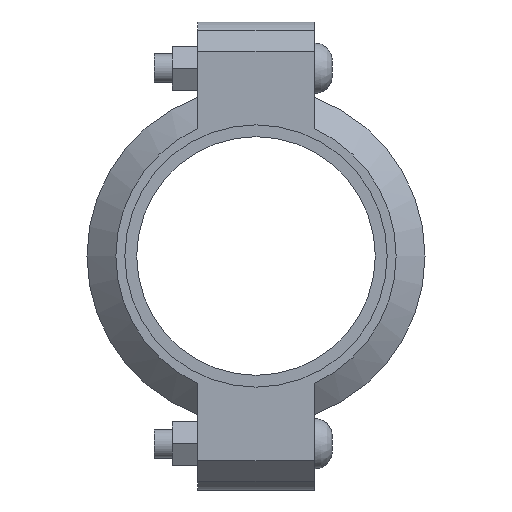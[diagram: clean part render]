
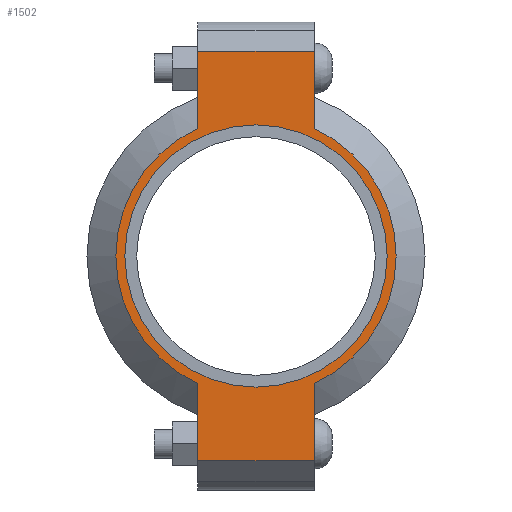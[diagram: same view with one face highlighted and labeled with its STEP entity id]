
A CAD part, left-side view. The second image highlights one B-rep face of the part: STEP entity #1502.
In plain terms, the highlighted planar face has unit normal (-1, 0, 0) as drawn and (0, 0, 1) by its records, which use the part's own axes.
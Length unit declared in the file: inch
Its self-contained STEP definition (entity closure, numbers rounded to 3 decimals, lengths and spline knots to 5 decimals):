
#126=LINE('',#2612,#219);
#134=LINE('',#2648,#227);
#141=LINE('',#2669,#234);
#150=LINE('',#2701,#243);
#151=LINE('',#2705,#244);
#152=LINE('',#2707,#245);
#219=VECTOR('',#2136,0.3937);
#227=VECTOR('',#2152,0.3937);
#234=VECTOR('',#2171,0.3937);
#243=VECTOR('',#2196,0.3937);
#244=VECTOR('',#2201,0.3937);
#245=VECTOR('',#2202,0.3937);
#301=FACE_BOUND('',#479,.T.);
#373=FACE_OUTER_BOUND('',#478,.T.);
#478=EDGE_LOOP('',(#1243,#1244,#1245,#1246,#1247,#1248,#1249,#1250));
#479=EDGE_LOOP('',(#1251));
#551=CIRCLE('',#1712,2.25);
#577=CIRCLE('',#1771,2.405);
#578=CIRCLE('',#1772,2.405);
#643=VERTEX_POINT('',#2428);
#686=VERTEX_POINT('',#2609);
#687=VERTEX_POINT('',#2611);
#698=VERTEX_POINT('',#2643);
#699=VERTEX_POINT('',#2647);
#706=VERTEX_POINT('',#2666);
#707=VERTEX_POINT('',#2668);
#717=VERTEX_POINT('',#2704);
#718=VERTEX_POINT('',#2706);
#799=EDGE_CURVE('',#643,#643,#551,.T.);
#860=EDGE_CURVE('',#687,#686,#126,.T.);
#874=EDGE_CURVE('',#699,#698,#134,.T.);
#884=EDGE_CURVE('',#707,#706,#141,.T.);
#899=EDGE_CURVE('',#699,#686,#150,.T.);
#900=EDGE_CURVE('',#698,#707,#577,.T.);
#901=EDGE_CURVE('',#717,#706,#151,.T.);
#902=EDGE_CURVE('',#717,#718,#152,.T.);
#903=EDGE_CURVE('',#718,#687,#578,.T.);
#1243=ORIENTED_EDGE('',*,*,#899,.F.);
#1244=ORIENTED_EDGE('',*,*,#874,.T.);
#1245=ORIENTED_EDGE('',*,*,#900,.T.);
#1246=ORIENTED_EDGE('',*,*,#884,.T.);
#1247=ORIENTED_EDGE('',*,*,#901,.F.);
#1248=ORIENTED_EDGE('',*,*,#902,.T.);
#1249=ORIENTED_EDGE('',*,*,#903,.T.);
#1250=ORIENTED_EDGE('',*,*,#860,.T.);
#1251=ORIENTED_EDGE('',*,*,#799,.T.);
#1344=PLANE('',#1770);
#1502=ADVANCED_FACE('',(#373,#301),#1344,.T.);
#1712=AXIS2_PLACEMENT_3D('',#2430,#2012,#2013);
#1770=AXIS2_PLACEMENT_3D('',#2702,#2197,#2198);
#1771=AXIS2_PLACEMENT_3D('',#2703,#2199,#2200);
#1772=AXIS2_PLACEMENT_3D('',#2708,#2203,#2204);
#2012=DIRECTION('center_axis',(0.,0.,-1.));
#2013=DIRECTION('ref_axis',(-1.,0.,0.));
#2136=DIRECTION('',(-1.,0.,0.));
#2152=DIRECTION('',(1.,0.,0.));
#2171=DIRECTION('',(1.,0.,0.));
#2196=DIRECTION('',(0.,1.,0.));
#2197=DIRECTION('center_axis',(0.,0.,1.));
#2198=DIRECTION('ref_axis',(1.,0.,0.));
#2199=DIRECTION('center_axis',(0.,0.,1.));
#2200=DIRECTION('ref_axis',(-1.,0.,0.));
#2201=DIRECTION('',(0.,-1.,0.));
#2202=DIRECTION('',(-1.,0.,0.));
#2203=DIRECTION('center_axis',(0.,0.,1.));
#2204=DIRECTION('ref_axis',(-1.,0.,0.));
#2428=CARTESIAN_POINT('',(2.25,0.,1.065));
#2430=CARTESIAN_POINT('Origin',(0.,0.,1.065));
#2609=CARTESIAN_POINT('',(-3.515,1.,1.065));
#2611=CARTESIAN_POINT('',(-2.18724,1.,1.065));
#2612=CARTESIAN_POINT('',(-4.015,1.,1.065));
#2643=CARTESIAN_POINT('',(-2.18724,-1.,1.065));
#2647=CARTESIAN_POINT('',(-3.515,-1.,1.065));
#2648=CARTESIAN_POINT('',(4.015,-1.,1.065));
#2666=CARTESIAN_POINT('',(3.515,-1.,1.065));
#2668=CARTESIAN_POINT('',(2.18724,-1.,1.065));
#2669=CARTESIAN_POINT('',(4.015,-1.,1.065));
#2701=CARTESIAN_POINT('',(-3.515,0.5,1.065));
#2702=CARTESIAN_POINT('Origin',(0.,0.,1.065));
#2703=CARTESIAN_POINT('Origin',(0.,0.,1.065));
#2704=CARTESIAN_POINT('',(3.515,1.,1.065));
#2705=CARTESIAN_POINT('',(3.515,-0.5,1.065));
#2706=CARTESIAN_POINT('',(2.18724,1.,1.065));
#2707=CARTESIAN_POINT('',(-4.015,1.,1.065));
#2708=CARTESIAN_POINT('Origin',(0.,0.,1.065));
